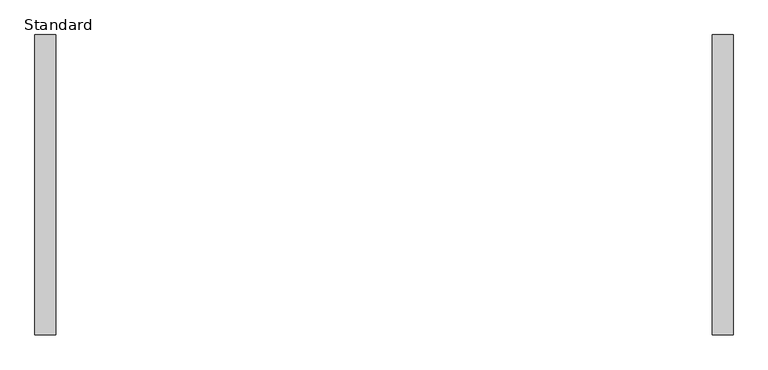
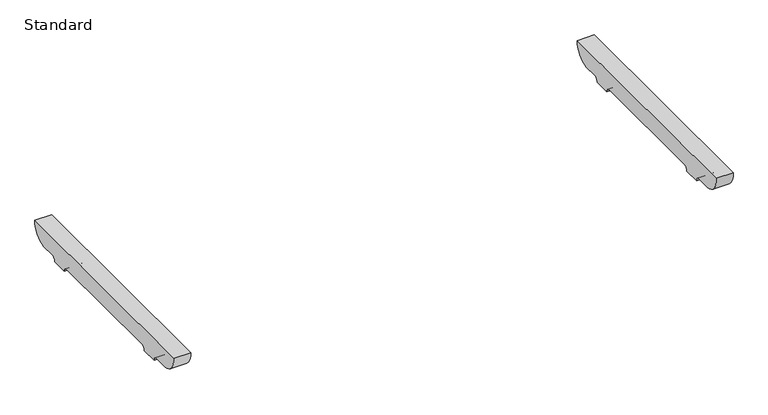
"""IFC4 building model written with IfcOpenShell, lengths in millimetres: furniture geometry, BDG_BossDesign_Tbls_AgentTables4Legs_Nested : Standard."""

from ifc_helpers import new_model, si_unit, point, frame, frame_2d, origin, place, context, project, spatial, polyline, circle_curve, trimmed, segment, composite_curve, outline, extrude, source, transform, mapped, element, save


def standard_d1606fe0(model_context):
    return source(origin(), model_context, "Body", "SweptSolid", [
        extrude(outline(composite_curve([segment(polyline([(280.5450184, 672.0), (242.7000122, 672.0)]), True, "CONTINUOUS"), segment(trimmed(circle_curve(frame_2d((242.7000122, 660.0)), 12.0), [point((242.7000122, 672.0))], [point((230.7000122, 660.0))], True, "CARTESIAN"), True, "CONTINUOUS"), segment(polyline([(230.7000122, 660.0), (185.7000122, 660.0)]), True, "CONTINUOUS"), segment(trimmed(circle_curve(frame_2d((173.7000122, 660.0)), 12.0), [point((185.7000122, 660.0))], [point((173.7000122, 672.0))], True, "CARTESIAN"), True, "CONTINUOUS"), segment(polyline([(173.7000122, 672.0), (-173.7000122, 672.0)]), True, "CONTINUOUS"), segment(trimmed(circle_curve(frame_2d((-173.7000122, 660.0)), 12.0), [point((-173.7000122, 672.0))], [point((-185.7000122, 660.0))], True, "CARTESIAN"), True, "CONTINUOUS"), segment(polyline([(-185.7000122, 660.0), (-230.7000122, 660.0)]), True, "CONTINUOUS"), segment(trimmed(circle_curve(frame_2d((-242.7000122, 660.0)), 12.0), [point((-230.7000122, 660.0))], [point((-242.7000122, 672.0))], True, "CARTESIAN"), True, "CONTINUOUS"), segment(polyline([(-242.7000122, 672.0), (-280.5450184, 672.0)]), True, "CONTINUOUS"), segment(trimmed(circle_curve(frame_2d((-278.2220439, 716.5514119)), 44.6119324), [point((-280.5450184, 672.0))], [point((-322.5, 722.0))], False, "CARTESIAN"), True, "CONTINUOUS"), segment(polyline([(-322.5, 722.0), (322.5, 722.0)]), True, "CONTINUOUS"), segment(trimmed(circle_curve(frame_2d((278.2220439, 716.5514119)), 44.6119324), [point((322.5, 722.0))], [point((280.5450184, 672.0))], False, "CARTESIAN"), True, "CONTINUOUS")], self_intersect=False)), frame((705.0, 0.0, 0.0), z_axis=(1.0, 0.0, 0.0), x_axis=(0.0, 1.0, 0.0)), (0.0, 0.0, 1.0), 45.0),
        extrude(outline(composite_curve([segment(polyline([(280.5450184, 672.0), (242.7000122, 672.0)]), True, "CONTINUOUS"), segment(trimmed(circle_curve(frame_2d((242.7000122, 660.0)), 12.0), [point((242.7000122, 672.0))], [point((230.7000122, 660.0))], True, "CARTESIAN"), True, "CONTINUOUS"), segment(polyline([(230.7000122, 660.0), (185.7000122, 660.0)]), True, "CONTINUOUS"), segment(trimmed(circle_curve(frame_2d((173.7000122, 660.0)), 12.0), [point((185.7000122, 660.0))], [point((173.7000122, 672.0))], True, "CARTESIAN"), True, "CONTINUOUS"), segment(polyline([(173.7000122, 672.0), (-173.7000122, 672.0)]), True, "CONTINUOUS"), segment(trimmed(circle_curve(frame_2d((-173.7000122, 660.0)), 12.0), [point((-173.7000122, 672.0))], [point((-185.7000122, 660.0))], True, "CARTESIAN"), True, "CONTINUOUS"), segment(polyline([(-185.7000122, 660.0), (-230.7000122, 660.0)]), True, "CONTINUOUS"), segment(trimmed(circle_curve(frame_2d((-242.7000122, 660.0)), 12.0), [point((-230.7000122, 660.0))], [point((-242.7000122, 672.0))], True, "CARTESIAN"), True, "CONTINUOUS"), segment(polyline([(-242.7000122, 672.0), (-280.5450184, 672.0)]), True, "CONTINUOUS"), segment(trimmed(circle_curve(frame_2d((-278.2220439, 716.5514119)), 44.6119324), [point((-280.5450184, 672.0))], [point((-322.5, 722.0))], False, "CARTESIAN"), True, "CONTINUOUS"), segment(polyline([(-322.5, 722.0), (322.5, 722.0)]), True, "CONTINUOUS"), segment(trimmed(circle_curve(frame_2d((278.2220439, 716.5514119)), 44.6119324), [point((322.5, 722.0))], [point((280.5450184, 672.0))], False, "CARTESIAN"), True, "CONTINUOUS")], self_intersect=False)), frame((-750.0, 0.0, 0.0), z_axis=(1.0, 0.0, 0.0), x_axis=(0.0, 1.0, 0.0)), (0.0, 0.0, 1.0), 45.0),
    ])


if __name__ == "__main__":
    model = new_model("IFC4")
    model_context = context("Model", 3, world=origin())
    ifc_project = project(units=[si_unit("LENGTHUNIT", "METRE", prefix="MILLI")], contexts=[model_context])
    site = spatial("IfcSite", under=ifc_project)
    building = spatial("IfcBuilding", under=site)
    placement = place(None, origin())
    standard_shape = standard_d1606fe0(model_context)
    element("IfcFurniture", 1, ObjectType="BDG_BossDesign_Tbls_AgentTables4Legs_Nested : Standard", at=placement, inside=building, context=model_context, shape_type="MappedRepresentation", body=[
        mapped(standard_shape, transform((0.0, 0.0, 0.0), x_axis=(1.0, 0.0, 0.0), y_axis=(0.0, 1.0, 0.0), z_axis=(0.0, 0.0, 1.0))),
    ])
    save(model, "model.ifc")
